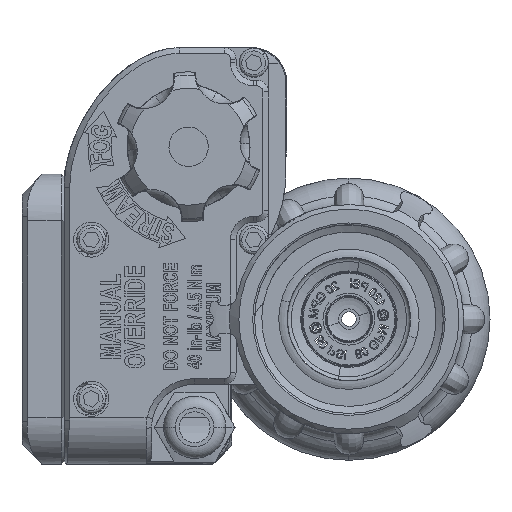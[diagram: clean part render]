
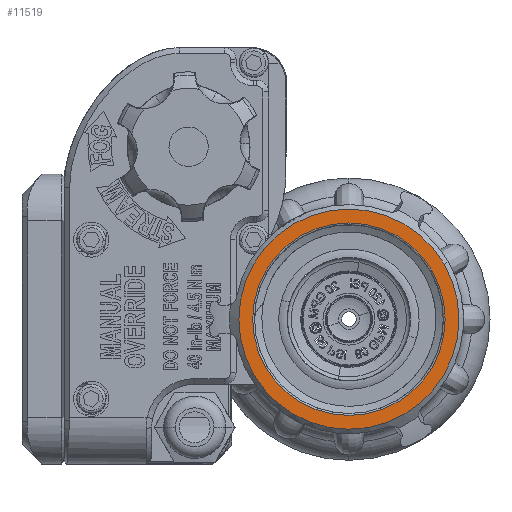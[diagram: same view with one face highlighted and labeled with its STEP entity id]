
A CAD part, left-side view. The second image highlights one B-rep face of the part: STEP entity #11519.
In plain terms, the highlighted planar face has unit normal (-1, 0, 0).
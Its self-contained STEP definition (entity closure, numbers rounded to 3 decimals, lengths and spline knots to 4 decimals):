
#1157 = DIRECTION ( 'NONE',  ( 0., -0.866, 0.5 ) ) ;
#1892 = VERTEX_POINT ( 'NONE', #6172 ) ;
#3309 = CARTESIAN_POINT ( 'NONE',  ( -6.2894, 0., 0. ) ) ;
#5806 = ORIENTED_EDGE ( 'NONE', *, *, #57164, .T. ) ;
#6172 = CARTESIAN_POINT ( 'NONE',  ( -6.2894, -1.0184, 0.588 ) ) ;
#6215 = AXIS2_PLACEMENT_3D ( 'NONE', #13142, #25097, #47846 ) ;
#10947 = AXIS2_PLACEMENT_3D ( 'NONE', #3309, #64884, #70449 ) ;
#11519 = ADVANCED_FACE ( 'NONE', ( #43407, #31126 ), #37470, .T. ) ;
#13142 = CARTESIAN_POINT ( 'NONE',  ( -6.2894, 0., 0. ) ) ;
#13456 = DIRECTION ( 'NONE',  ( 1., 0., 0. ) ) ;
#18227 = CIRCLE ( 'NONE', #55209, 1.176 ) ;
#21458 = EDGE_CURVE ( 'NONE', #48537, #71084, #43122, .T. ) ;
#23181 = CARTESIAN_POINT ( 'NONE',  ( -6.2894, 0., 0. ) ) ;
#25097 = DIRECTION ( 'NONE',  ( -1., 0., 0. ) ) ;
#25542 = CARTESIAN_POINT ( 'NONE',  ( -6.2894, 0., 0. ) ) ;
#27009 = EDGE_LOOP ( 'NONE', ( #73231, #40175 ) ) ;
#28470 = EDGE_CURVE ( 'NONE', #71084, #48537, #45463, .T. ) ;
#29514 = CARTESIAN_POINT ( 'NONE',  ( -6.2894, 0., 0. ) ) ;
#30397 = VERTEX_POINT ( 'NONE', #48999 ) ;
#31126 = FACE_BOUND ( 'NONE', #27009, .T. ) ;
#31614 = ORIENTED_EDGE ( 'NONE', *, *, #59137, .T. ) ;
#34374 = DIRECTION ( 'NONE',  ( 0., 0.866, -0.5 ) ) ;
#37470 = PLANE ( 'NONE',  #39334 ) ;
#39334 = AXIS2_PLACEMENT_3D ( 'NONE', #25542, #66176, #71380 ) ;
#40175 = ORIENTED_EDGE ( 'NONE', *, *, #21458, .T. ) ;
#43122 = CIRCLE ( 'NONE', #10947, 1.0282 ) ;
#43407 = FACE_OUTER_BOUND ( 'NONE', #70055, .T. ) ;
#44577 = CARTESIAN_POINT ( 'NONE',  ( -6.2894, -0.8904, 0.5141 ) ) ;
#45463 = CIRCLE ( 'NONE', #62181, 1.0282 ) ;
#47846 = DIRECTION ( 'NONE',  ( 0., 0.866, -0.5 ) ) ;
#48537 = VERTEX_POINT ( 'NONE', #62621 ) ;
#48999 = CARTESIAN_POINT ( 'NONE',  ( -6.2894, 1.0184, -0.588 ) ) ;
#55209 = AXIS2_PLACEMENT_3D ( 'NONE', #23181, #69426, #34374 ) ;
#57164 = EDGE_CURVE ( 'NONE', #30397, #1892, #68129, .T. ) ;
#59137 = EDGE_CURVE ( 'NONE', #1892, #30397, #18227, .T. ) ;
#62181 = AXIS2_PLACEMENT_3D ( 'NONE', #29514, #13456, #1157 ) ;
#62621 = CARTESIAN_POINT ( 'NONE',  ( -6.2894, 0.8904, -0.5141 ) ) ;
#64884 = DIRECTION ( 'NONE',  ( 1., 0., 0. ) ) ;
#66176 = DIRECTION ( 'NONE',  ( -1., 0., 0. ) ) ;
#68129 = CIRCLE ( 'NONE', #6215, 1.176 ) ;
#69426 = DIRECTION ( 'NONE',  ( -1., 0., 0. ) ) ;
#70055 = EDGE_LOOP ( 'NONE', ( #31614, #5806 ) ) ;
#70449 = DIRECTION ( 'NONE',  ( 0., -0.866, 0.5 ) ) ;
#71084 = VERTEX_POINT ( 'NONE', #44577 ) ;
#71380 = DIRECTION ( 'NONE',  ( 0., 0.866, -0.5 ) ) ;
#73231 = ORIENTED_EDGE ( 'NONE', *, *, #28470, .T. ) ;
